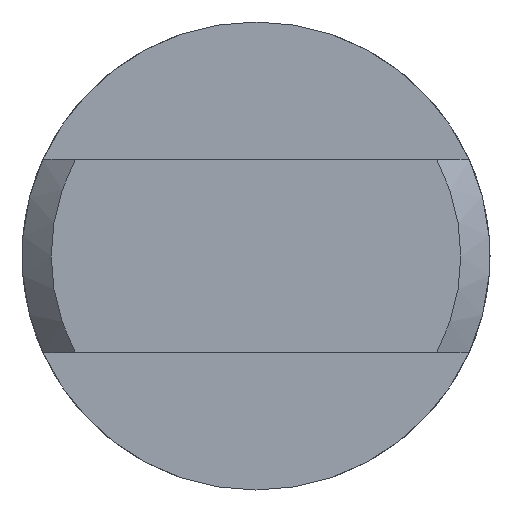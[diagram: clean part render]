
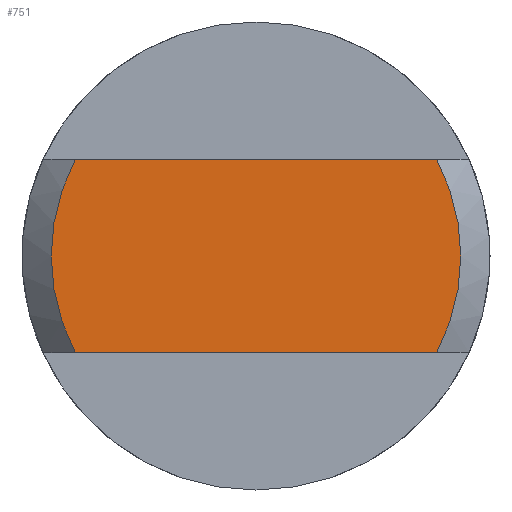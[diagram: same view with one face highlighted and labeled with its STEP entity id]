
A CAD part, left-side view. The second image highlights one B-rep face of the part: STEP entity #751.
In plain terms, the highlighted planar face has unit normal (-1, 0, 0).
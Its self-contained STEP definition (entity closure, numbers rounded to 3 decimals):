
#8 = VERTEX_POINT ( 'NONE', #103 ) ;
#22 = AXIS2_PLACEMENT_3D ( 'NONE', #229, #164, #832 ) ;
#53 = CIRCLE ( 'NONE', #388, 3.5 ) ;
#103 = CARTESIAN_POINT ( 'NONE',  ( -21.75, -3.087, 1.65 ) ) ;
#104 = ORIENTED_EDGE ( 'NONE', *, *, #688, .F. ) ;
#164 = DIRECTION ( 'NONE',  ( 1., 0., 0. ) ) ;
#185 = CARTESIAN_POINT ( 'NONE',  ( -21.75, 3.087, 1.65 ) ) ;
#202 = CARTESIAN_POINT ( 'NONE',  ( -21.75, 0., 0. ) ) ;
#229 = CARTESIAN_POINT ( 'NONE',  ( -21.75, 0., 0. ) ) ;
#241 = DIRECTION ( 'NONE',  ( 0., 1., 0. ) ) ;
#342 = VECTOR ( 'NONE', #241, 1000. ) ;
#367 = CARTESIAN_POINT ( 'NONE',  ( -21.75, 0., 0. ) ) ;
#370 = EDGE_CURVE ( 'NONE', #885, #8, #857, .T. ) ;
#388 = AXIS2_PLACEMENT_3D ( 'NONE', #367, #779, #767 ) ;
#391 = PLANE ( 'NONE',  #22 ) ;
#477 = LINE ( 'NONE', #1030, #342 ) ;
#507 = VERTEX_POINT ( 'NONE', #185 ) ;
#524 = CARTESIAN_POINT ( 'NONE',  ( -21.75, 3.087, -1.65 ) ) ;
#526 = LINE ( 'NONE', #1001, #825 ) ;
#593 = DIRECTION ( 'NONE',  ( 0., 0., -1. ) ) ;
#595 = AXIS2_PLACEMENT_3D ( 'NONE', #202, #856, #593 ) ;
#600 = DIRECTION ( 'NONE',  ( 0., -1., 0. ) ) ;
#603 = EDGE_LOOP ( 'NONE', ( #742, #898, #104, #950 ) ) ;
#688 = EDGE_CURVE ( 'NONE', #885, #998, #477, .T. ) ;
#731 = FACE_OUTER_BOUND ( 'NONE', #603, .T. ) ;
#742 = ORIENTED_EDGE ( 'NONE', *, *, #972, .F. ) ;
#751 = ADVANCED_FACE ( 'NONE', ( #731 ), #391, .F. ) ;
#767 = DIRECTION ( 'NONE',  ( 0., 0., -1. ) ) ;
#779 = DIRECTION ( 'NONE',  ( -1., 0., 0. ) ) ;
#825 = VECTOR ( 'NONE', #600, 1000. ) ;
#826 = CARTESIAN_POINT ( 'NONE',  ( -21.75, -3.087, -1.65 ) ) ;
#832 = DIRECTION ( 'NONE',  ( 0., 0., -1. ) ) ;
#856 = DIRECTION ( 'NONE',  ( -1., 0., 0. ) ) ;
#857 = CIRCLE ( 'NONE', #595, 3.5 ) ;
#885 = VERTEX_POINT ( 'NONE', #826 ) ;
#896 = EDGE_CURVE ( 'NONE', #507, #998, #53, .T. ) ;
#898 = ORIENTED_EDGE ( 'NONE', *, *, #896, .T. ) ;
#950 = ORIENTED_EDGE ( 'NONE', *, *, #370, .T. ) ;
#972 = EDGE_CURVE ( 'NONE', #507, #8, #526, .T. ) ;
#998 = VERTEX_POINT ( 'NONE', #524 ) ;
#1001 = CARTESIAN_POINT ( 'NONE',  ( -21.75, 0., 1.65 ) ) ;
#1030 = CARTESIAN_POINT ( 'NONE',  ( -21.75, 0., -1.65 ) ) ;
